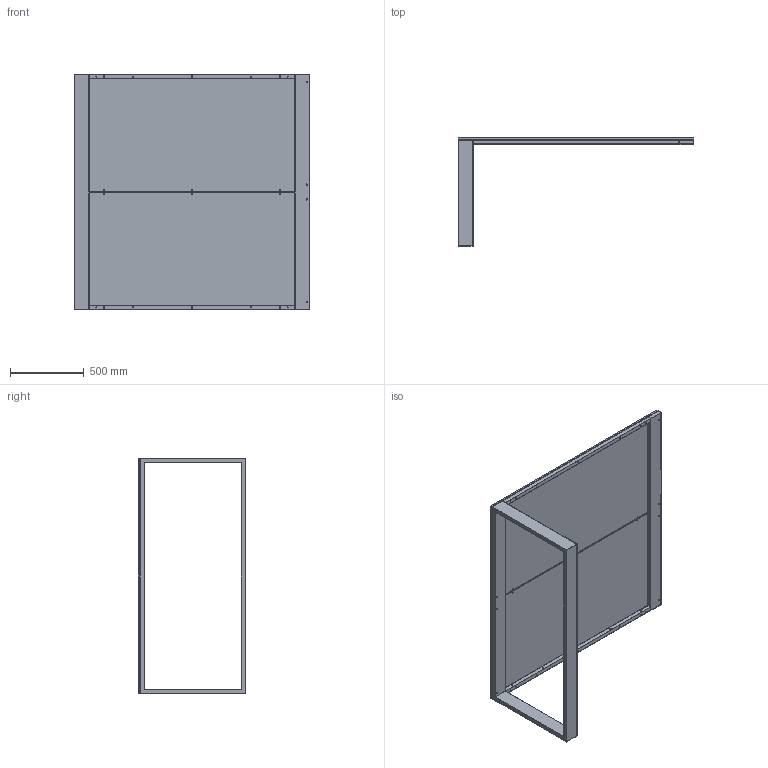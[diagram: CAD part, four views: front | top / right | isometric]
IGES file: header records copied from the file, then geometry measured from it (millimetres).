
Start section: SolidWorks IGES file using NURBS representation for surfaces
Global section: file name: G:\VICCARBE\PRODUCTOS\12-LEG-IN\04-MODELADOS (PLANOS)\SOLIDWORKS\LEG_IN 2011\ENSAMBLAJES\Mesas 3D\IGES\VICCARBE_LEB160x160A.IGS; native system: SolidWorks 2009; preprocessor: SolidWorks 2009; author: RUBEN; date: 111024.095745; units: millimetre
Bounding box: 1600 x 732 x 1600 mm (x, y, z)
Surface area: 8956741.1 mm2 (no closed solid volume)
Topology: 0 solids, 0 shells, 290 faces, 5168 edges, 5120 vertices
Faces by surface type: bspline 290
